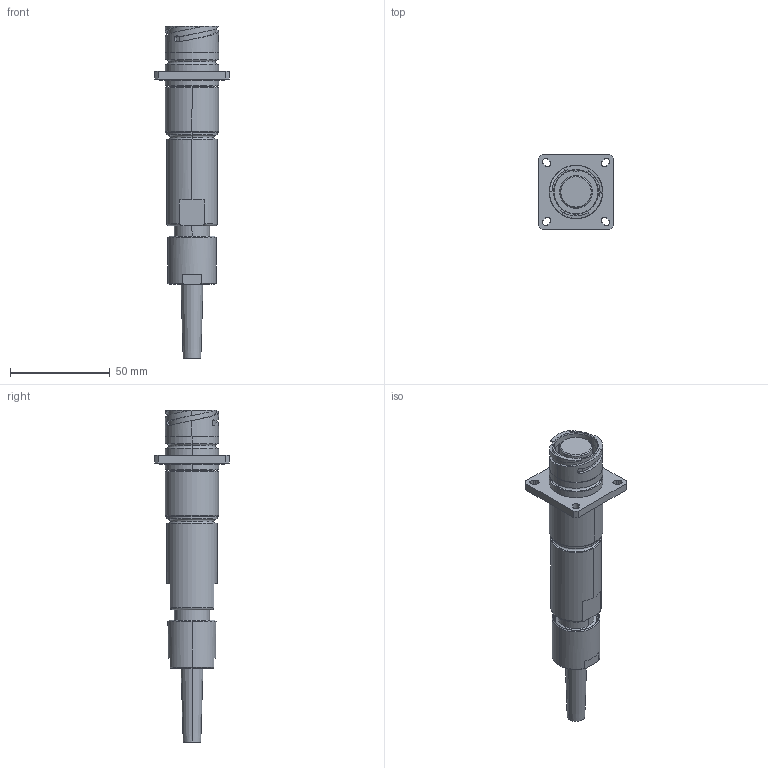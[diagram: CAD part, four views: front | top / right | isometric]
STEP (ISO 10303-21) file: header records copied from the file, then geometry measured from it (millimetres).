
FILE_DESCRIPTION (( 'STEP AP214' ), '1' );
FILE_NAME ('QLINK-RFBX-15XX-SXXX-R1.STEP', '2025-12-16T16:03:05', ( '' ), ( '' ), 'SwSTEP 2.0', 'SolidWorks 2024', '' );
FILE_SCHEMA (( 'AUTOMOTIVE_DESIGN' ));
Length unit declared in the file: millimetre
Products named in the file (1): QLINK-RFBX-15XX-SXXX-R1
Bounding box: 37.34 x 37.34 x 166.83 mm (x, y, z)
Volume: 66543.4 mm3; surface area: 20421.9 mm2
Topology: 2 solids, 2 shells, 203 faces, 484 edges, 305 vertices
Faces by surface type: cylinder 74, plane 56, cone 29, torus 26, bspline 18
Entity records: 9905 total; most frequent: CARTESIAN_POINT 5243, DIRECTION 983, ORIENTED_EDGE 968, EDGE_CURVE 484, AXIS2_PLACEMENT_3D 407, VERTEX_POINT 305, EDGE_LOOP 233, CIRCLE 221
